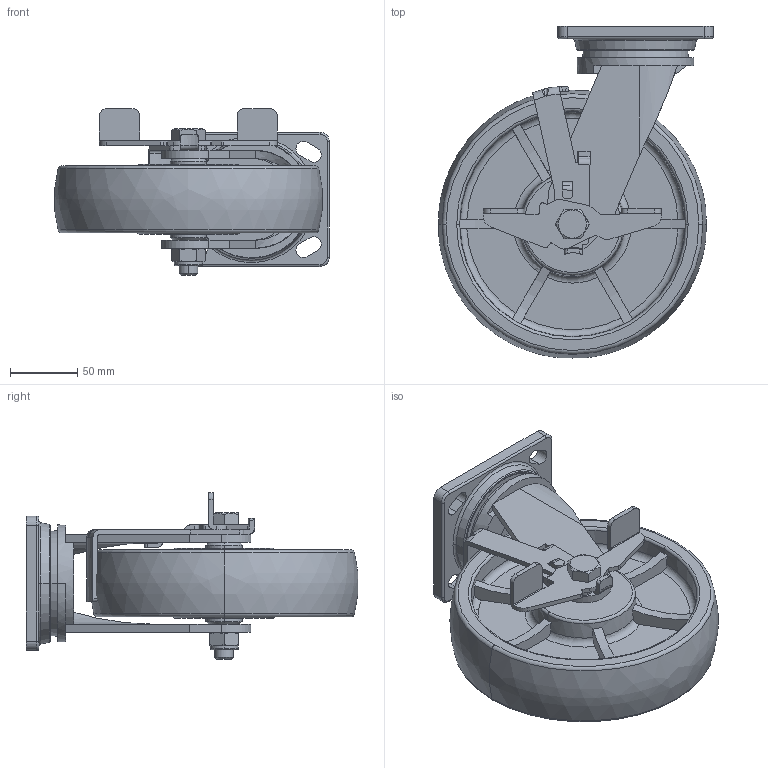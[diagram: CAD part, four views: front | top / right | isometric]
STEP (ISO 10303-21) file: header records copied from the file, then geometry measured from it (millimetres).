
FILE_DESCRIPTION((''),'2;1');
FILE_NAME('78128C_ASM','2021-06-02T',('lenovo'),(''),'PRO/ENGINEER BY PARAMETRIC TECHNOLOGY CORPORATION, 2010280','PRO/ENGINEER BY PARAMETRIC TECHNOLOGY CORPORATION, 2010280','');
FILE_SCHEMA(('CONFIG_CONTROL_DESIGN'));
Length unit declared in the file: millimetre
Products named in the file (9): 7810-201; 768C11; 7810-211; 788-926; 708-15; 700-14; 780C-33; 780-34; 78128C_ASM
Assembly tree (8 placements, depth 2):
  78128C_ASM
    7810-201
    768C11
    7810-211
    788-926
    708-15
    700-14
    780C-33
    780-34
Bounding box: 204.67 x 247.17 x 124 mm (x, y, z)
Volume: 1278043.6 mm3; surface area: 229990.6 mm2
Topology: 9 solids, 9 shells, 503 faces, 1332 edges, 867 vertices
Faces by surface type: plane 293, cylinder 114, torus 62, cone 30, bspline 4
Entity records: 16659 total; most frequent: CARTESIAN_POINT 3944, ORIENTED_EDGE 2664, DIRECTION 2561, EDGE_CURVE 1332, AXIS2_PLACEMENT_3D 889, VERTEX_POINT 867, VECTOR 783, LINE 783
